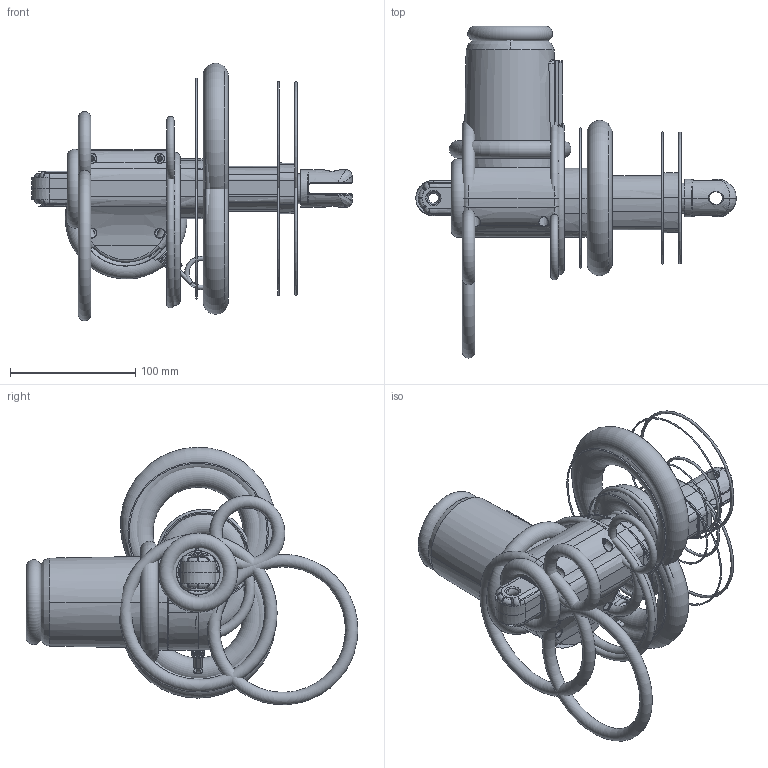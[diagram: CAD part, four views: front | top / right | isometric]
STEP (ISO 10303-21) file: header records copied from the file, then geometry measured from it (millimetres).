
FILE_DESCRIPTION((''),'2;1');
FILE_NAME('ASM0007_ASM','2014-06-03T',('tony'),(''),'PRO/ENGINEER BY PARAMETRIC TECHNOLOGY CORPORATION, 2008090','PRO/ENGINEER BY PARAMETRIC TECHNOLOGY CORPORATION, 2008090','');
FILE_SCHEMA(('CONFIG_CONTROL_DESIGN'));
Products named in the file (8): PRT0004; PRT0005; PRT0006; ASM0011_ASM; ASM0010_ASM; ASM0009_ASM; ASM0008_ASM; ASM0007_ASM
Assembly tree (7 placements, depth 6):
  ASM0007_ASM
    PRT0004
    ASM0008_ASM
      ASM0009_ASM
        ASM0010_ASM
          ASM0011_ASM
            PRT0005
            PRT0006
Bounding box: 255.4 x 264.6 x 205.33 mm (x, y, z)
Surface area: 606148.7 mm2 (no closed solid volume)
Topology: 0 solids, 0 shells, 3527 faces, 19621 edges, 19477 vertices
Faces by surface type: bspline 3315, torus 198, sphere 14
Entity records: 300080 total; most frequent: CARTESIAN_POINT 125542, DIRECTION 27409, TRIMMED_CURVE 24509, VECTOR 22073, LINE 22073, DEFINITIONAL_REPRESENTATION 19333, PCURVE 19333, COMPOSITE_CURVE_SEGMENT 19333
